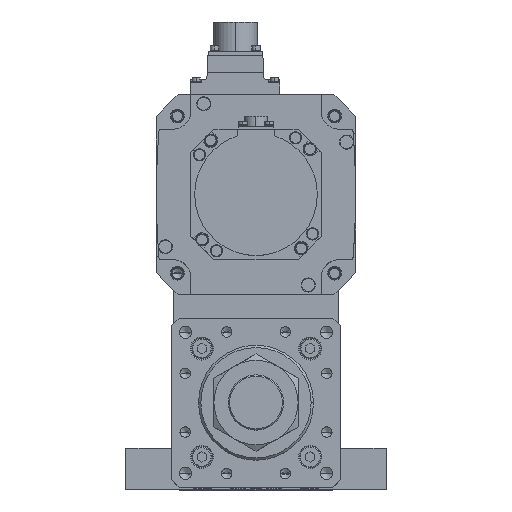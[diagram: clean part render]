
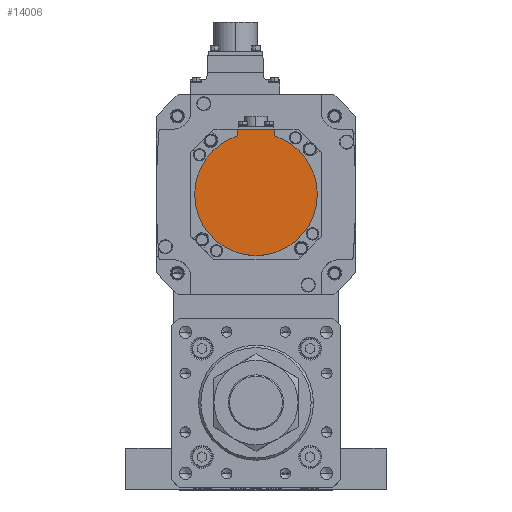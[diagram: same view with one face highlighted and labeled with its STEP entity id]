
A CAD part, top view. The second image highlights one B-rep face of the part: STEP entity #14006.
In plain terms, the highlighted planar face has unit normal (0, 0, 1) as drawn and (0, 0, -1) by its records, which use the part's own axes.
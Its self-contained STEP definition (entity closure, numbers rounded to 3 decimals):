
#1400 = CARTESIAN_POINT ( 'NONE',  ( 0., 0., -132.5 ) ) ;
#1637 = DIRECTION ( 'NONE',  ( 0., 0., 1. ) ) ;
#2085 = ORIENTED_EDGE ( 'NONE', *, *, #12016, .F. ) ;
#3501 = EDGE_CURVE ( 'NONE', #10336, #24903, #28272, .T. ) ;
#4621 = VERTEX_POINT ( 'NONE', #24580 ) ;
#4697 = ORIENTED_EDGE ( 'NONE', *, *, #5567, .T. ) ;
#4824 = CARTESIAN_POINT ( 'NONE',  ( 12., -1.249, -132.5 ) ) ;
#5567 = EDGE_CURVE ( 'NONE', #4621, #31177, #19859, .T. ) ;
#5629 = DIRECTION ( 'NONE',  ( -1., 0., 0. ) ) ;
#6198 = CARTESIAN_POINT ( 'NONE',  ( 12., -38.158, -132.5 ) ) ;
#7566 = LINE ( 'NONE', #4824, #10150 ) ;
#8097 = DIRECTION ( 'NONE',  ( 0., 0., 1. ) ) ;
#9594 = EDGE_CURVE ( 'NONE', #21959, #4621, #22111, .T. ) ;
#10150 = VECTOR ( 'NONE', #13136, 1000. ) ;
#10175 = DIRECTION ( 'NONE',  ( 0., 1., 0. ) ) ;
#10216 = VERTEX_POINT ( 'NONE', #6198 ) ;
#10336 = VERTEX_POINT ( 'NONE', #28051 ) ;
#12016 = EDGE_CURVE ( 'NONE', #21959, #10216, #7566, .T. ) ;
#13136 = DIRECTION ( 'NONE',  ( 0., 1., 0. ) ) ;
#13317 = AXIS2_PLACEMENT_3D ( 'NONE', #13732, #8097, #35245 ) ;
#13732 = CARTESIAN_POINT ( 'NONE',  ( 0., -1.249, -132.5 ) ) ;
#14006 = ADVANCED_FACE ( 'NONE', ( #25361 ), #24471, .F. ) ;
#14829 = VECTOR ( 'NONE', #5629, 1000. ) ;
#17204 = EDGE_CURVE ( 'NONE', #24903, #31177, #30749, .T. ) ;
#17215 = ORIENTED_EDGE ( 'NONE', *, *, #27914, .F. ) ;
#17938 = ORIENTED_EDGE ( 'NONE', *, *, #3501, .F. ) ;
#18456 = ORIENTED_EDGE ( 'NONE', *, *, #17204, .F. ) ;
#19859 = LINE ( 'NONE', #31780, #23683 ) ;
#21959 = VERTEX_POINT ( 'NONE', #24160 ) ;
#22111 = LINE ( 'NONE', #33025, #14829 ) ;
#22785 = CARTESIAN_POINT ( 'NONE',  ( -12., -38.158, -132.5 ) ) ;
#23683 = VECTOR ( 'NONE', #10175, 1000. ) ;
#23706 = DIRECTION ( 'NONE',  ( 0., 0., 1. ) ) ;
#23844 = CIRCLE ( 'NONE', #33134, 40. ) ;
#24160 = CARTESIAN_POINT ( 'NONE',  ( 12., -42.5, -132.5 ) ) ;
#24471 = PLANE ( 'NONE',  #13317 ) ;
#24580 = CARTESIAN_POINT ( 'NONE',  ( -12., -42.5, -132.5 ) ) ;
#24903 = VERTEX_POINT ( 'NONE', #33327 ) ;
#25069 = AXIS2_PLACEMENT_3D ( 'NONE', #26866, #23706, #35061 ) ;
#25361 = FACE_OUTER_BOUND ( 'NONE', #30764, .T. ) ;
#25515 = DIRECTION ( 'NONE',  ( 1., 0., 0. ) ) ;
#26866 = CARTESIAN_POINT ( 'NONE',  ( 0., 0., -132.5 ) ) ;
#27914 = EDGE_CURVE ( 'NONE', #10216, #10336, #23844, .T. ) ;
#28051 = CARTESIAN_POINT ( 'NONE',  ( 40., 0., -132.5 ) ) ;
#28272 = CIRCLE ( 'NONE', #25069, 40. ) ;
#28599 = CARTESIAN_POINT ( 'NONE',  ( 0., 0., -132.5 ) ) ;
#30749 = CIRCLE ( 'NONE', #34476, 40. ) ;
#30764 = EDGE_LOOP ( 'NONE', ( #4697, #18456, #17938, #17215, #2085, #30839 ) ) ;
#30839 = ORIENTED_EDGE ( 'NONE', *, *, #9594, .T. ) ;
#31177 = VERTEX_POINT ( 'NONE', #22785 ) ;
#31780 = CARTESIAN_POINT ( 'NONE',  ( -12., -40.329, -132.5 ) ) ;
#33025 = CARTESIAN_POINT ( 'NONE',  ( 0., -42.5, -132.5 ) ) ;
#33134 = AXIS2_PLACEMENT_3D ( 'NONE', #28599, #34142, #25515 ) ;
#33327 = CARTESIAN_POINT ( 'NONE',  ( -40., 0., -132.5 ) ) ;
#34142 = DIRECTION ( 'NONE',  ( 0., 0., 1. ) ) ;
#34426 = DIRECTION ( 'NONE',  ( 1., 0., 0. ) ) ;
#34476 = AXIS2_PLACEMENT_3D ( 'NONE', #1400, #1637, #34426 ) ;
#35061 = DIRECTION ( 'NONE',  ( 1., 0., 0. ) ) ;
#35245 = DIRECTION ( 'NONE',  ( 1., 0., 0. ) ) ;
